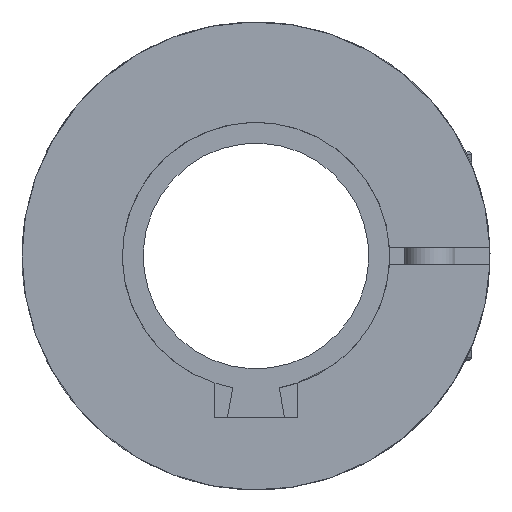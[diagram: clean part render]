
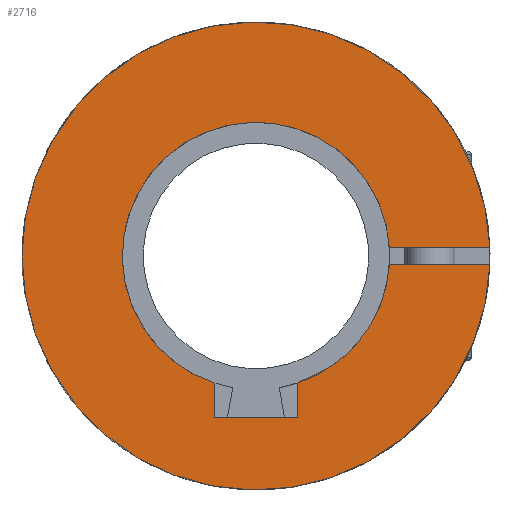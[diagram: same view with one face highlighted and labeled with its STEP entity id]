
A CAD part, left-side view. The second image highlights one B-rep face of the part: STEP entity #2716.
In plain terms, the highlighted planar face has unit normal (-1, 0, 0).
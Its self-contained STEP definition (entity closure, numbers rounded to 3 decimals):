
#126=PLANE('',#3033);
#234=FACE_OUTER_BOUND('',#387,.T.);
#387=EDGE_LOOP('',(#2216,#2217,#2218,#2219,#2220,#2221,#2222,#2223,#2224));
#560=LINE('',#4408,#813);
#563=LINE('',#4414,#816);
#564=LINE('',#4416,#817);
#575=LINE('',#4452,#828);
#592=LINE('',#4620,#845);
#813=VECTOR('',#3480,1.);
#816=VECTOR('',#3485,1.);
#817=VECTOR('',#3488,1.);
#828=VECTOR('',#3527,1000.);
#845=VECTOR('',#3616,1000.);
#1018=CIRCLE('',#2965,16.);
#1028=CIRCLE('',#2975,16.);
#1060=CIRCLE('',#3025,28.);
#1061=CIRCLE('',#3026,28.);
#1206=VERTEX_POINT('',#4347);
#1207=VERTEX_POINT('',#4348);
#1226=VERTEX_POINT('',#4386);
#1227=VERTEX_POINT('',#4388);
#1234=VERTEX_POINT('',#4406);
#1236=VERTEX_POINT('',#4412);
#1247=VERTEX_POINT('',#4451);
#1276=VERTEX_POINT('',#4600);
#1277=VERTEX_POINT('',#4602);
#1524=EDGE_CURVE('',#1206,#1207,#1018,.T.);
#1544=EDGE_CURVE('',#1227,#1226,#1028,.T.);
#1554=EDGE_CURVE('',#1226,#1234,#560,.T.);
#1557=EDGE_CURVE('',#1234,#1236,#563,.T.);
#1558=EDGE_CURVE('',#1236,#1206,#564,.T.);
#1576=EDGE_CURVE('',#1227,#1247,#575,.T.);
#1614=EDGE_CURVE('',#1277,#1276,#1060,.T.);
#1616=EDGE_CURVE('',#1276,#1247,#1061,.T.);
#1624=EDGE_CURVE('',#1277,#1207,#592,.T.);
#2216=ORIENTED_EDGE('',*,*,#1524,.T.);
#2217=ORIENTED_EDGE('',*,*,#1624,.F.);
#2218=ORIENTED_EDGE('',*,*,#1614,.T.);
#2219=ORIENTED_EDGE('',*,*,#1616,.T.);
#2220=ORIENTED_EDGE('',*,*,#1576,.F.);
#2221=ORIENTED_EDGE('',*,*,#1544,.T.);
#2222=ORIENTED_EDGE('',*,*,#1554,.T.);
#2223=ORIENTED_EDGE('',*,*,#1557,.T.);
#2224=ORIENTED_EDGE('',*,*,#1558,.T.);
#2716=ADVANCED_FACE('',(#234),#126,.F.);
#2965=AXIS2_PLACEMENT_3D('',#4349,#3433,#3434);
#2975=AXIS2_PLACEMENT_3D('',#4389,#3463,#3464);
#3025=AXIS2_PLACEMENT_3D('',#4603,#3597,#3598);
#3026=AXIS2_PLACEMENT_3D('',#4605,#3600,#3601);
#3033=AXIS2_PLACEMENT_3D('',#4624,#3621,#3622);
#3433=DIRECTION('center_axis',(1.,0.,0.));
#3434=DIRECTION('ref_axis',(0.,0.,-1.));
#3463=DIRECTION('center_axis',(1.,0.,0.));
#3464=DIRECTION('ref_axis',(0.,0.,-1.));
#3480=DIRECTION('',(0.,0.,-1.));
#3485=DIRECTION('',(0.,1.,0.));
#3488=DIRECTION('',(0.,0.,1.));
#3527=DIRECTION('',(0.,-1.,0.));
#3597=DIRECTION('center_axis',(-1.,0.,0.));
#3598=DIRECTION('ref_axis',(0.,-1.,0.));
#3600=DIRECTION('center_axis',(-1.,0.,0.));
#3601=DIRECTION('ref_axis',(0.,-1.,0.));
#3616=DIRECTION('',(0.,1.,0.));
#3621=DIRECTION('center_axis',(1.,0.,0.));
#3622=DIRECTION('ref_axis',(0.,0.,-1.));
#4347=CARTESIAN_POINT('',(0.,5.,-15.199));
#4348=CARTESIAN_POINT('',(0.,-15.969,1.));
#4349=CARTESIAN_POINT('Origin',(0.,0.,0.));
#4386=CARTESIAN_POINT('',(0.,-5.,-15.199));
#4388=CARTESIAN_POINT('',(0.,-15.969,-1.));
#4389=CARTESIAN_POINT('Origin',(0.,0.,0.));
#4406=CARTESIAN_POINT('',(0.,-5.,-19.3));
#4408=CARTESIAN_POINT('',(0.,-5.,9.175));
#4412=CARTESIAN_POINT('',(0.,5.,-19.3));
#4414=CARTESIAN_POINT('',(0.,0.,-19.3));
#4416=CARTESIAN_POINT('',(0.,5.,9.175));
#4451=CARTESIAN_POINT('',(0.,-27.982,-1.));
#4452=CARTESIAN_POINT('',(0.,11.283,-1.));
#4600=CARTESIAN_POINT('',(0.,28.,0.));
#4602=CARTESIAN_POINT('',(0.,-27.982,1.));
#4603=CARTESIAN_POINT('Origin',(0.,0.,0.));
#4605=CARTESIAN_POINT('Origin',(0.,0.,0.));
#4620=CARTESIAN_POINT('',(0.,11.283,1.));
#4624=CARTESIAN_POINT('Origin',(0.,0.,28.));
